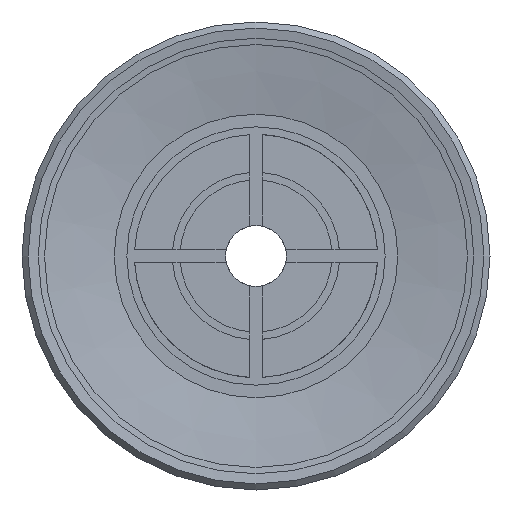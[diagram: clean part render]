
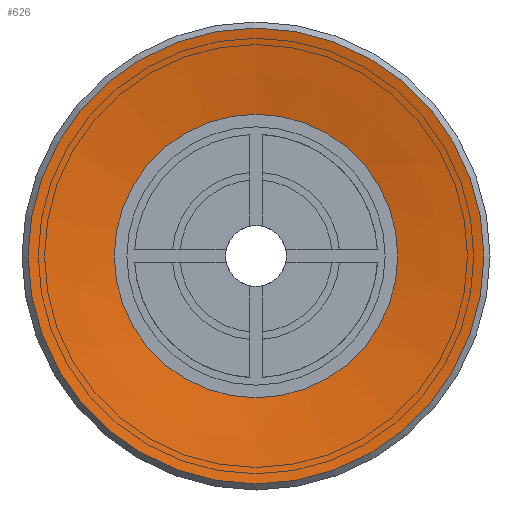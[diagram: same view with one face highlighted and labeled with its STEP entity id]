
A CAD part, front view. The second image highlights one B-rep face of the part: STEP entity #626.
In plain terms, the highlighted conical face has half-angle 80 degrees and reference radius 4.664 mm.
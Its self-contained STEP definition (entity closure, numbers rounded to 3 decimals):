
#626=ADVANCED_FACE('',(#1055,#1056),#1057,.F.);
#1055=FACE_BOUND('',#1729,.T.);
#1056=FACE_OUTER_BOUND('',#1730,.T.);
#1057=CONICAL_SURFACE('',#1731,4.664,1.396);
#1729=EDGE_LOOP('',(#2953));
#1730=EDGE_LOOP('',(#2954));
#1731=AXIS2_PLACEMENT_3D('',#2955,#2956,#2957);
#2953=ORIENTED_EDGE('',*,*,#3433,.F.);
#2954=ORIENTED_EDGE('',*,*,#3402,.T.);
#2955=CARTESIAN_POINT('',(0.0,0.5,0.0));
#2956=DIRECTION('',(-0.0,-1.0,0.));
#2957=DIRECTION('',(0.0,0.,-1.0));
#3402=EDGE_CURVE('',#3995,#3995,#3996,.T.);
#3433=EDGE_CURVE('',#4042,#4042,#4043,.T.);
#3995=VERTEX_POINT('',#5351);
#3996=CIRCLE('',#5352,7.5);
#4042=VERTEX_POINT('',#5449);
#4043=CIRCLE('',#5450,4.664);
#5351=CARTESIAN_POINT('',(0.0,0.,-7.5));
#5352=AXIS2_PLACEMENT_3D('',#5957,#5958,#5959);
#5449=CARTESIAN_POINT('',(0.0,0.5,-4.664));
#5450=AXIS2_PLACEMENT_3D('',#5994,#5995,#5996);
#5957=CARTESIAN_POINT('',(0.0,0.0,0.0));
#5958=DIRECTION('',(0.0,-1.0,0.));
#5959=DIRECTION('',(0.0,0.,-1.0));
#5994=CARTESIAN_POINT('',(0.0,0.5,0.0));
#5995=DIRECTION('',(0.0,-1.0,0.));
#5996=DIRECTION('',(0.0,0.,-1.0));
